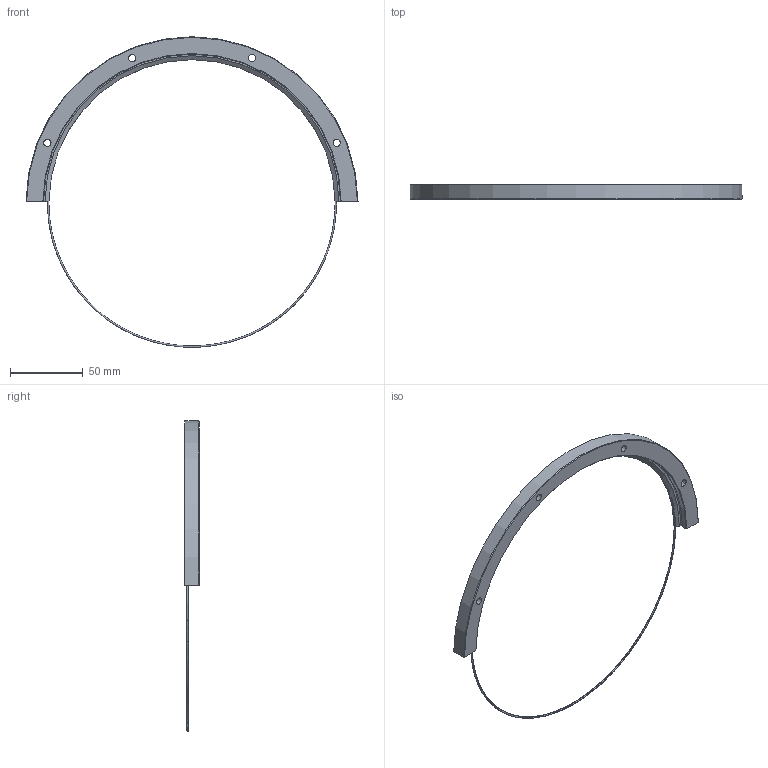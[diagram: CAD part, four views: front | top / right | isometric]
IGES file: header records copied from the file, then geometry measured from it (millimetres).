
Start section: 3D InterOp IGES (v. 2019 1.0.2), Spatial Corp. Copyright (c) 1999-2017.
Global section: file name: RIV 228 R180.igs; native system: Spatial Corp.; preprocessor: 3D InterOp GENERIC/IGES 3.0; author: Noname; organization: Noname; date: 20220719.140143; units: millimetre
Bounding box: 228.19 x 10 x 213.43 mm (x, y, z)
Surface area: 20940.1 mm2 (no closed solid volume)
Topology: 0 solids, 0 shells, 37 faces, 190 edges, 188 vertices
Faces by surface type: revolution 27, extrusion 10
